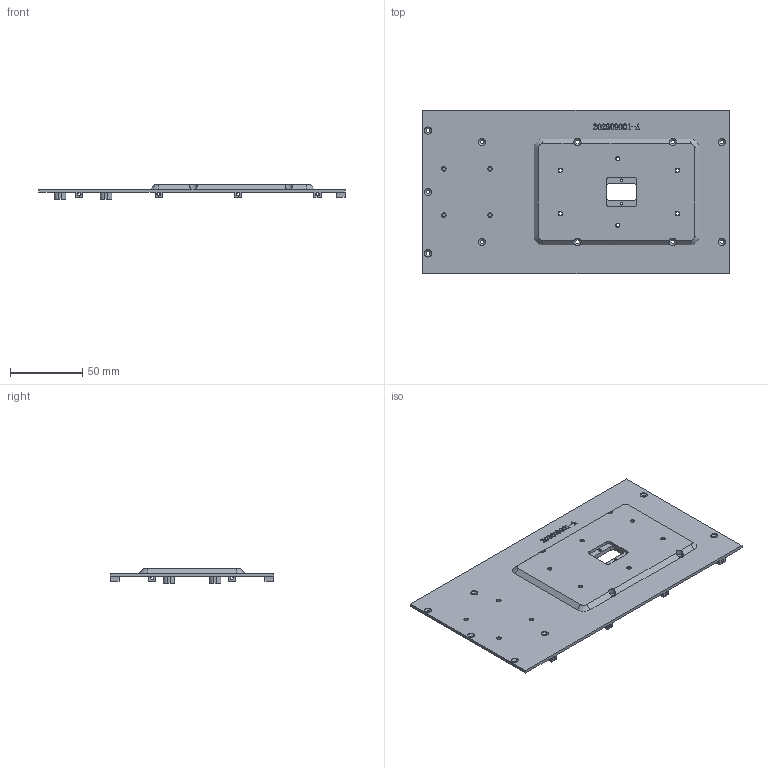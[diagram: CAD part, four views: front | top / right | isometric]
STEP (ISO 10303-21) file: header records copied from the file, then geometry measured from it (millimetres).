
FILE_DESCRIPTION (( 'STEP AP203' ), '1' );
FILE_NAME ('防水干扰枪-底.STEP', '2026-09-24T08:58:22', ( '' ), ( '' ), 'SwSTEP 2.0', 'SolidWorks 2016', '' );
FILE_SCHEMA (( 'CONFIG_CONTROL_DESIGN' ));
Length unit declared in the file: millimetre
Products named in the file (1): 防水干扰枪-底
Bounding box: 212 x 113 x 10 mm (x, y, z)
Volume: 58664 mm3; surface area: 52981.2 mm2
Topology: 1 solids, 1 shells, 319 faces, 932 edges, 640 vertices
Faces by surface type: cylinder 128, plane 121, cone 70
Entity records: 12167 total; most frequent: CARTESIAN_POINT 3384, ORIENTED_EDGE 1864, DIRECTION 1766, EDGE_CURVE 932, VERTEX_POINT 640, AXIS2_PLACEMENT_3D 628, LINE 510, VECTOR 510
